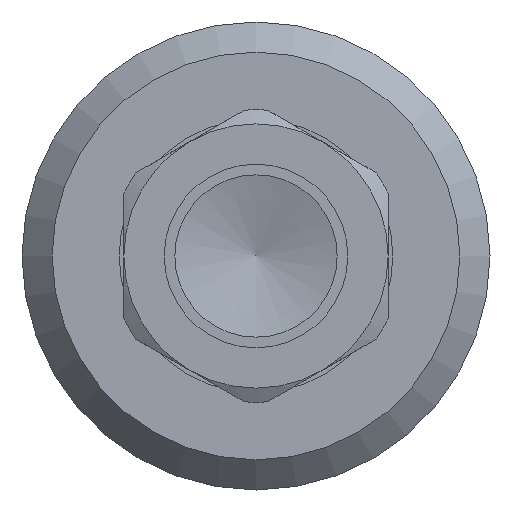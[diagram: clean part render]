
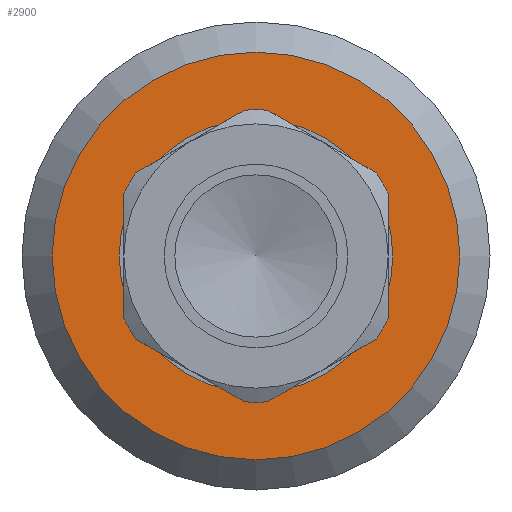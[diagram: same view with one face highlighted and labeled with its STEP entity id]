
A CAD part, left-side view. The second image highlights one B-rep face of the part: STEP entity #2900.
In plain terms, the highlighted planar face has unit normal (-1, 0, 0).
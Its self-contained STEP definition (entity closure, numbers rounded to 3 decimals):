
#2900=ADVANCED_FACE('', (#2910,#2920), #2930, .T.);
#9930=AXIS2_PLACEMENT_3D('Ax2Pl3d', #9940, #9950, #9960);
#9970=AXIS2_PLACEMENT_3D('Ax2Pl3d', #9980, #9990, #10000);
#10010=AXIS2_PLACEMENT_3D('Ax2Pl3d', #10020, #10030, #10040);
#9940=CARTESIAN_POINT('HicPkt', (16.832,15.024,
17.41));
#15260=CARTESIAN_POINT('', (16.832,15.024,28.21));
#9980=CARTESIAN_POINT('HicPkt', (16.832,15.024,
28.21));
#10020=CARTESIAN_POINT('HicPkt', (16.832,15.024,
17.41));
#15270=CARTESIAN_POINT('', (16.832,15.024,24.66));
#16650=CIRCLE('Circle', #9930, 10.8);
#16660=CIRCLE('Circle', #10010, 7.25);
#9950=DIRECTION('Axis', (1.,0.,0.));
#9960=DIRECTION('RefDirection', (0.,0.,-1.));
#9990=DIRECTION('Axis', (-1.,0.,0.))
;
#10000=DIRECTION('RefDirection', (0.,
0.,-1.));
#10030=DIRECTION('Axis', (1.,0.,0.));
#10040=DIRECTION('RefDirection', (0.,0.,-1.));
#24490=EDGE_CURVE('', #24500, #24500, #16650, .T.);
#24510=EDGE_CURVE('', #24520, #24520, #16660, .T.);
#29190=EDGE_LOOP('Edge_loop', (#29200));
#29210=EDGE_LOOP('Edge_loop', (#29220));
#2920=FACE_BOUND('', #29210, .T.);
#2910=FACE_OUTER_BOUND('Face_outer_bound', #29190, .T.);
#29200=ORIENTED_EDGE('', *, *, #24490, .F.);
#29220=ORIENTED_EDGE('', *, *, #24510, .T.);
#2930=PLANE('Plane', #9970);
#24500=VERTEX_POINT('', #15260);
#24520=VERTEX_POINT('', #15270);
